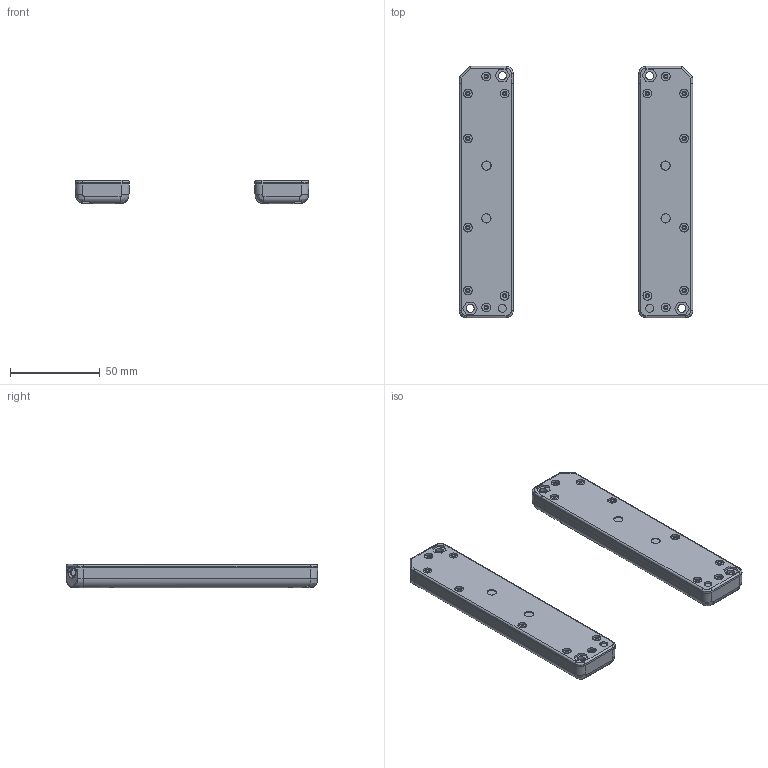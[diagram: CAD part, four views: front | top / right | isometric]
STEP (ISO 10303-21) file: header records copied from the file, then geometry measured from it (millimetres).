
FILE_DESCRIPTION(/* description */ (''),/* implementation_level */ '2;1');
FILE_NAME(/* name */ '0620.stp',/* time_stamp */ '2020-08-21T11:11:40+08:00',/* author */ (''),/* organization */ (''),/* preprocessor_version */ 'ST-DEVELOPER v16',/* originating_system */ 'SIEMENS PLM Software NX 10.0',/* authorisation */ '');
FILE_SCHEMA (('AP203_CONFIGURATION_CONTROLLED_3D_DESIGN_OF_MECHANICAL_PARTS_AND_ASSEMBLIES_MIM_LF { 1 0 10303 403 2 1 2}'));
Length unit declared in the file: millimetre
Products named in the file (1): Admi18DC5F57ze8x
Bounding box: 130 x 140 x 13 mm (x, y, z)
Volume: 42913.5 mm3; surface area: 56339.9 mm2
Topology: 7 solids, 7 shells, 1534 faces, 4349 edges, 2896 vertices
Faces by surface type: plane 1224, cylinder 219, bspline 59, cone 24, extrusion 8
Full cylindrical faces by diameter (mm): 1.5 x16, 2.1 x14, 2.4 x14, 4.4 x4, 4.5 x4, 4.9 x14, 7.617 x22
Entity records: 51504 total; most frequent: CARTESIAN_POINT 12444, ORIENTED_EDGE 8324, DIRECTION 7552, EDGE_CURVE 4162, VECTOR 3148, LINE 3140, VERTEX_POINT 2803, AXIS2_PLACEMENT_3D 2202
